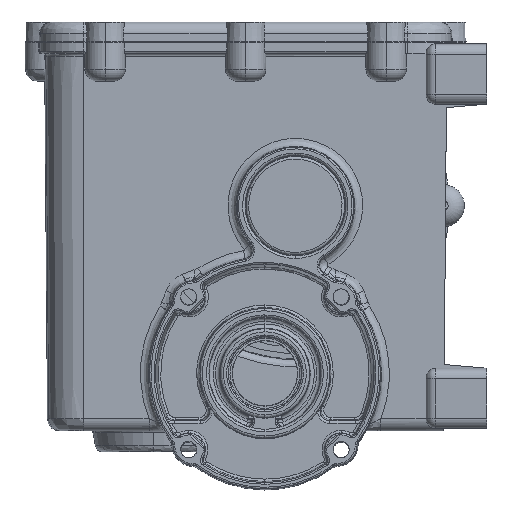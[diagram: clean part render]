
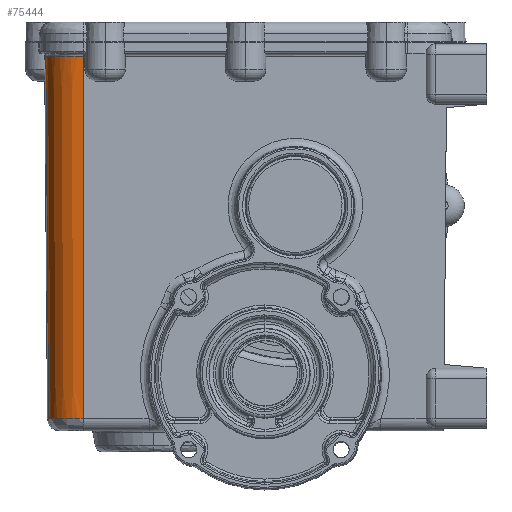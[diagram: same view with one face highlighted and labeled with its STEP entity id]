
A CAD part, left-side view. The second image highlights one B-rep face of the part: STEP entity #75444.
In plain terms, the highlighted conical face has half-angle 0.45 degrees and reference radius 10.912 mm.
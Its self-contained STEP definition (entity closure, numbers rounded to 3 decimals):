
#216 = CARTESIAN_POINT ( 'NONE',  ( -109.157, 141.217, 97.137 ) ) ;
#627 = AXIS2_PLACEMENT_3D ( 'NONE', #56629, #45502, #45091 ) ;
#4025 = CARTESIAN_POINT ( 'NONE',  ( -109.193, 141.217, 101.703 ) ) ;
#5324 = LINE ( 'NONE', #41353, #70218 ) ;
#7125 = CARTESIAN_POINT ( 'NONE',  ( -108.265, 141.217, -16.513 ) ) ;
#7813 = DIRECTION ( 'NONE',  ( 0., 0., 1. ) ) ;
#8043 = EDGE_CURVE ( 'NONE', #38100, #71585, #5324, .T. ) ;
#8293 = VERTEX_POINT ( 'NONE', #7125 ) ;
#14024 = CARTESIAN_POINT ( 'NONE',  ( -97.543, 152.128, -16.513 ) ) ;
#14060 = EDGE_CURVE ( 'NONE', #71585, #8293, #56115, .T. ) ;
#18158 = FACE_OUTER_BOUND ( 'NONE', #77409, .T. ) ;
#24090 = EDGE_CURVE ( 'NONE', #77779, #38100, #63011, .T. ) ;
#29448 = LINE ( 'NONE', #4025, #44162 ) ;
#31842 = EDGE_CURVE ( 'NONE', #77779, #8293, #29448, .T. ) ;
#32771 = CARTESIAN_POINT ( 'NONE',  ( -97.352, 141.217, 97.137 ) ) ;
#33806 = ORIENTED_EDGE ( 'NONE', *, *, #8043, .T. ) ;
#38100 = VERTEX_POINT ( 'NONE', #77227 ) ;
#41353 = CARTESIAN_POINT ( 'NONE',  ( -97.352, 141.217, -1405.899 ) ) ;
#44162 = VECTOR ( 'NONE', #72941, 1000. ) ;
#45091 = DIRECTION ( 'NONE',  ( 1., 0., 0. ) ) ;
#45502 = DIRECTION ( 'NONE',  ( 0., 0., 1. ) ) ;
#45925 = AXIS2_PLACEMENT_3D ( 'NONE', #32771, #51164, #57757 ) ;
#51164 = DIRECTION ( 'NONE',  ( 0., 0., -1. ) ) ;
#56115 = CIRCLE ( 'NONE', #60037, 10.912 ) ;
#56629 = CARTESIAN_POINT ( 'NONE',  ( -97.352, 141.217, -16.513 ) ) ;
#57256 = ORIENTED_EDGE ( 'NONE', *, *, #31842, .F. ) ;
#57757 = DIRECTION ( 'NONE',  ( -0.017, 1., 0. ) ) ;
#58488 = ORIENTED_EDGE ( 'NONE', *, *, #24090, .T. ) ;
#59159 = ORIENTED_EDGE ( 'NONE', *, *, #14060, .T. ) ;
#60037 = AXIS2_PLACEMENT_3D ( 'NONE', #64019, #7813, #76703 ) ;
#63011 = CIRCLE ( 'NONE', #45925, 11.805 ) ;
#64019 = CARTESIAN_POINT ( 'NONE',  ( -97.352, 141.217, -16.513 ) ) ;
#66416 = DIRECTION ( 'NONE',  ( 0., -0.008, -1. ) ) ;
#70218 = VECTOR ( 'NONE', #66416, 1000. ) ;
#71585 = VERTEX_POINT ( 'NONE', #14024 ) ;
#72941 = DIRECTION ( 'NONE',  ( 0.008, 0., -1. ) ) ;
#73977 = CONICAL_SURFACE ( 'NONE', #627, 10.912, 0.008 ) ;
#75444 = ADVANCED_FACE ( 'NONE', ( #18158 ), #73977, .T. ) ;
#76703 = DIRECTION ( 'NONE',  ( -0.017, 1., 0. ) ) ;
#77227 = CARTESIAN_POINT ( 'NONE',  ( -97.558, 153.02, 97.137 ) ) ;
#77409 = EDGE_LOOP ( 'NONE', ( #59159, #57256, #58488, #33806 ) ) ;
#77779 = VERTEX_POINT ( 'NONE', #216 ) ;
